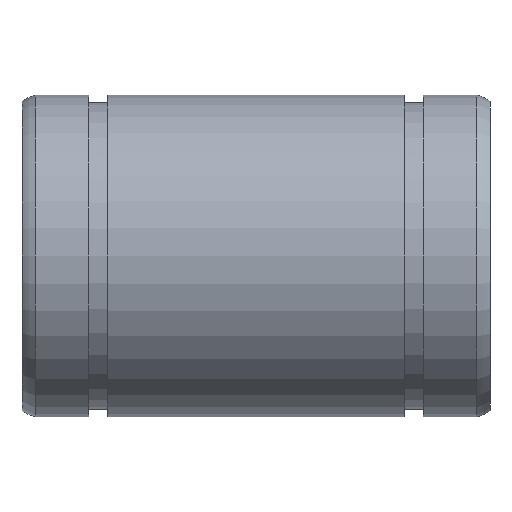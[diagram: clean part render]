
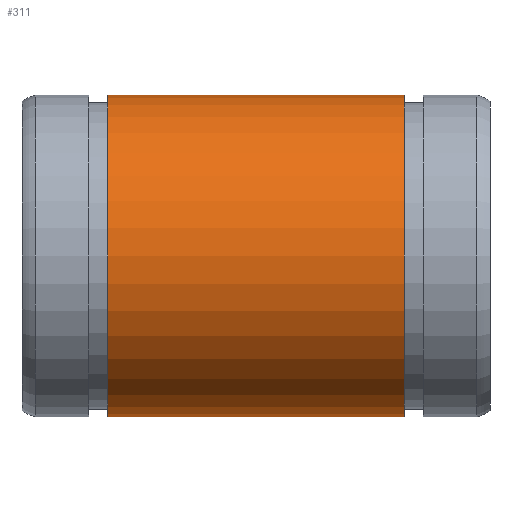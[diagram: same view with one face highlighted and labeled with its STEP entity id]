
A CAD part, front view. The second image highlights one B-rep face of the part: STEP entity #311.
In plain terms, the highlighted cylindrical face has radius 11 mm (diameter 22 mm), a full revolution.
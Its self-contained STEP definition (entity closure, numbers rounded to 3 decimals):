
#277=CARTESIAN_POINT('',(26.15,0.0,11.));
#278=VERTEX_POINT('',#277);
#279=CARTESIAN_POINT('',(26.15,0.0,0.));
#280=DIRECTION('',(-1.0,0.0,0.0));
#281=DIRECTION('',(0.0,0.0,1.0));
#282=AXIS2_PLACEMENT_3D('',#279,#280,#281);
#283=CIRCLE('',#282,11.);
#284=EDGE_CURVE('',#278,#278,#283,.T.);
#292=CARTESIAN_POINT('',(16.,0.0,0.));
#293=DIRECTION('',(-1.0,0.0,0.0));
#294=DIRECTION('',(0.0,0.0,1.0));
#295=AXIS2_PLACEMENT_3D('',#292,#293,#294);
#296=CYLINDRICAL_SURFACE('',#295,11.);
#297=CARTESIAN_POINT('',(5.85,0.0,11.));
#298=VERTEX_POINT('',#297);
#299=CARTESIAN_POINT('',(5.85,0.0,0.));
#300=DIRECTION('',(-1.0,0.0,0.0));
#301=DIRECTION('',(0.0,0.0,1.0));
#302=AXIS2_PLACEMENT_3D('',#299,#300,#301);
#303=CIRCLE('',#302,11.0);
#304=EDGE_CURVE('',#298,#298,#303,.T.);
#305=ORIENTED_EDGE('',*,*,#304,.F.);
#306=EDGE_LOOP('',(#305));
#307=FACE_OUTER_BOUND('',#306,.T.);
#308=ORIENTED_EDGE('',*,*,#284,.T.);
#309=EDGE_LOOP('',(#308));
#310=FACE_BOUND('',#309,.T.);
#311=ADVANCED_FACE('',(#307,#310),#296,.T.);
